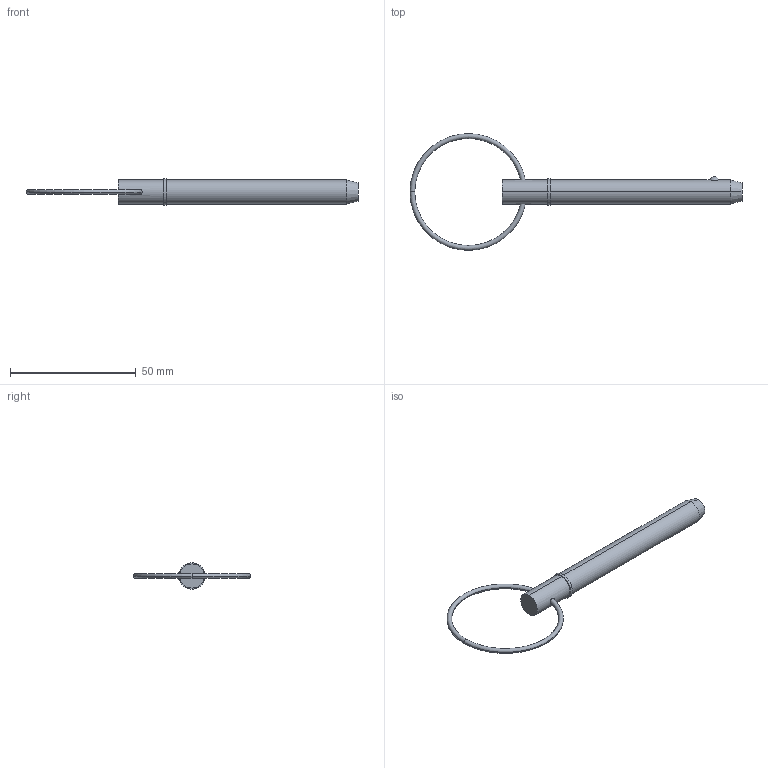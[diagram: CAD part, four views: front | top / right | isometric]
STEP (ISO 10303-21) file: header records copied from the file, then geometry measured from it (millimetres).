
FILE_DESCRIPTION (( 'STEP AP203' ), '1' );
FILE_NAME ('33016.W3725.step', '2024-11-07T11:05:31', ( '' ), ( '' ), 'SwSTEP 2.0', 'SolidWorks 2019', '' );
FILE_SCHEMA (( 'CONFIG_CONTROL_DESIGN' ));
Length unit declared in the file: millimetre
Products named in the file (3): 33016.W3725; Part1_33016.W3725; Part2_33016.W3725
Assembly tree (2 placements, depth 2):
  33016.W3725
    Part1_33016.W3725
    Part2_33016.W3725
Bounding box: 131.83 x 46.36 x 10.48 mm (x, y, z)
Volume: 7099.5 mm3; surface area: 3887.7 mm2
Topology: 2 solids, 2 shells, 22 faces, 43 edges, 26 vertices
Faces by surface type: torus 8, cylinder 6, plane 4, sphere 2, cone 2
Entity records: 1003 total; most frequent: CARTESIAN_POINT 226, DIRECTION 120, ORIENTED_EDGE 86, AXIS2_PLACEMENT_3D 56, EDGE_CURVE 43, CIRCLE 29, EDGE_LOOP 27, VERTEX_POINT 26
